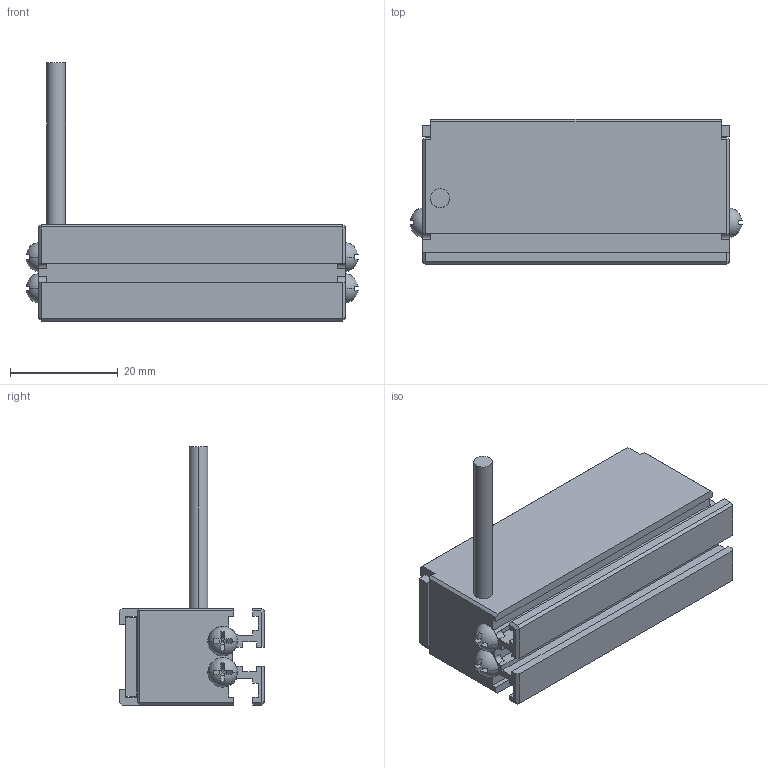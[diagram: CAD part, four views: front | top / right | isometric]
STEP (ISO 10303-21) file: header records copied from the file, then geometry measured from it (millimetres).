
FILE_DESCRIPTION((''),'2;1');
FILE_NAME('MV-LLDS-57-18_ASM','2020-12-29T',('Administrator'),(''),'PRO/ENGINEER BY PARAMETRIC TECHNOLOGY CORPORATION, 2010100','PRO/ENGINEER BY PARAMETRIC TECHNOLOGY CORPORATION, 2010100','');
FILE_SCHEMA(('CONFIG_CONTROL_DESIGN'));
Length unit declared in the file: millimetre
Products named in the file (4): BL_2_-_6; M3-5_3; BI-2_ASM_6_ASM; MV-LLDS-57-18_ASM
Assembly tree (6 placements, depth 3):
  MV-LLDS-57-18_ASM
    BI-2_ASM_6_ASM
      BL_2_-_6
      M3-5_3  x4
Bounding box: 61.68 x 27 x 48 mm (x, y, z)
Volume: 22978.5 mm3; surface area: 11973.7 mm2
Topology: 5 solids, 13 shells, 281 faces, 736 edges, 472 vertices
Faces by surface type: plane 167, cylinder 66, cone 16, bspline 16, torus 8, sphere 8
Entity records: 6067 total; most frequent: CARTESIAN_POINT 1344, DIRECTION 966, ORIENTED_EDGE 942, EDGE_CURVE 481, VECTOR 340, LINE 340, AXIS2_PLACEMENT_3D 313, VERTEX_POINT 313
